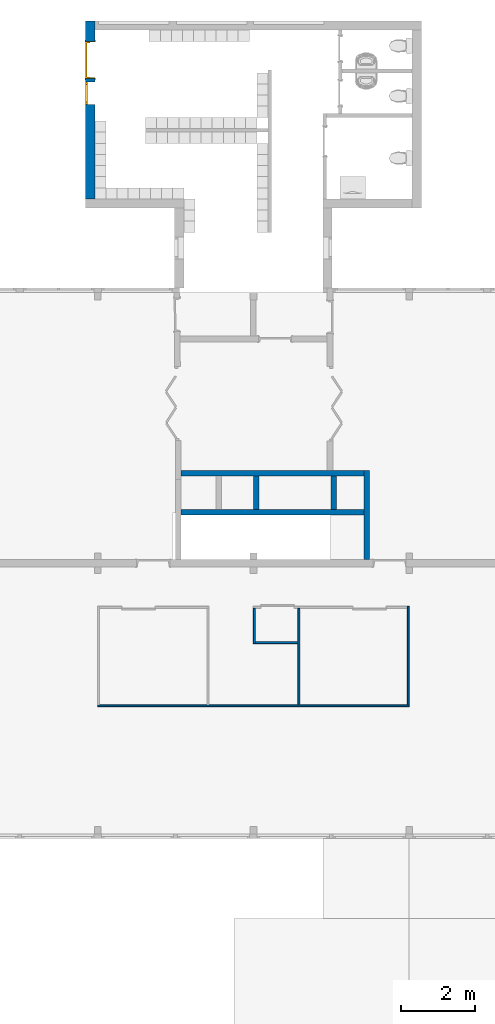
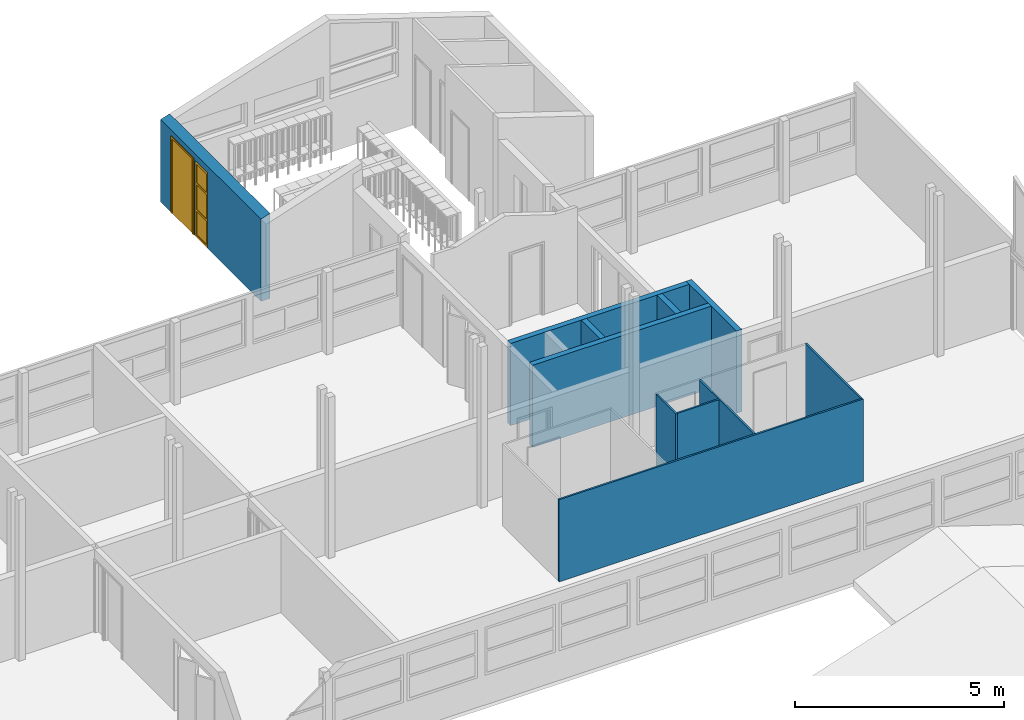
# One storey, part 32 of 48: 11 walls, 1 door, 1 window, 2 openings.
"""IFC2X3 building model written with IfcOpenShell, lengths in millimetres."""

from ifc_helpers import new_model, entity, si_unit, converted_unit, derived_unit, money_unit, direction, frame, origin_with_axes, place, context, subcontext, project, spatial, open_shell, faceted_brep, surface_model, material, type_object, element, fill, save


model = new_model("IFC2X3")

# Units and contexts
model_context = context("Model", 3, precision=0.01, world=origin_with_axes(), true_north=direction((0.0, 1.0)))
body_context = subcontext(model_context, "Body", "Model", "MODEL_VIEW")
ifc_project = project(units=[si_unit("LENGTHUNIT", "METRE", prefix="MILLI"), si_unit("AREAUNIT", "SQUARE_METRE"), si_unit("VOLUMEUNIT", "CUBIC_METRE"), converted_unit("PLANEANGLEUNIT", "DEGREE", entity("IfcPlaneAngleMeasure", 0.0174532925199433), si_unit("PLANEANGLEUNIT", "RADIAN"), dimensions=[0, 0, 0, 0, 0, 0, 0]), money_unit("USD"), converted_unit("TIMEUNIT", "Year", entity("IfcTimeMeasure", 31557600.0), si_unit("TIMEUNIT", "SECOND"), dimensions=[0, 0, 1, 0, 0, 0, 0]), si_unit("MASSUNIT", "GRAM", prefix="KILO"), si_unit("THERMODYNAMICTEMPERATUREUNIT", "DEGREE_CELSIUS"), si_unit("LUMINOUSINTENSITYUNIT", "LUMEN"), si_unit("ENERGYUNIT", "JOULE", prefix="MEGA"), derived_unit("THERMALCONDUCTANCEUNIT", [(si_unit("POWERUNIT", "WATT"), 1), (si_unit("LENGTHUNIT", "METRE"), -1), (si_unit("THERMODYNAMICTEMPERATUREUNIT", "KELVIN"), -1)]), derived_unit("SPECIFICHEATCAPACITYUNIT", [(si_unit("ENERGYUNIT", "JOULE"), 1), (si_unit("MASSUNIT", "GRAM", prefix="KILO"), -1), (si_unit("THERMODYNAMICTEMPERATUREUNIT", "KELVIN"), -1)]), derived_unit("MASSDENSITYUNIT", [(si_unit("MASSUNIT", "GRAM", prefix="KILO"), 1), (si_unit("VOLUMEUNIT", "CUBIC_METRE"), -1)])], contexts=[model_context])

# Site, building, storey
site_placement = place(None, origin_with_axes())
site = spatial("IfcSite", under=ifc_project, at=site_placement, Name="Site", CompositionType="ELEMENT")
building_placement = place(site_placement, origin_with_axes())
building = spatial("IfcBuilding", under=site, at=building_placement, Name="Building", CompositionType="ELEMENT")
storey_placement = place(building_placement, frame((0.0, 0.0, 3300.0), z_axis=(0.0, 0.0, 1.0), x_axis=(1.0, 0.0, 0.0)))
storey = spatial("IfcBuildingStorey", under=building, at=storey_placement, Name="1 ETG", CompositionType="ELEMENT", Elevation=3300.0)

# Walls
ifc_material = material(Name="GENERIC - INTERNAL FILLER")
wall_type_1 = type_object("IfcWallType", Name="GENERIC - INTERNAL FILLER 150", PredefinedType="NOTDEFINED")
wall_1_placement = place(storey_placement, frame((60003.50288425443, 15799.87497638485, 0.0), z_axis=(0.0, 0.0, 1.0), x_axis=(1.0, 0.0, 0.0)))
element("IfcWall", 1, at=wall_1_placement, inside=storey, type_object=wall_type_1, material=ifc_material, Name="SW - 001", context=body_context, shape_type="Brep", body=[
    faceted_brep([(4930.183057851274, 150.0000000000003, 0.0), (4930.183057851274, 0.0, 0.0), (0.0, 0.0, 0.0), (0.0, 150.0000000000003, 0.0), (4930.183057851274, 150.0000000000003, 2400.0), (4930.183057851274, 0.0, 2400.0), (0.0, 0.0, 2400.0), (0.0, 150.0000000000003, 2400.0)], [[[0, 1, 2, 3]], [[1, 0, 4, 5]], [[1, 5, 6, 2]], [[7, 3, 2, 6]], [[4, 0, 3, 7]], [[5, 4, 7, 6]]]),
])
wall_2_placement = place(storey_placement, frame((64933.68594210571, 16999.87497638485, 0.0), z_axis=(0.0, 0.0, 1.0), x_axis=(0.0, -1.0, 0.0)))
element("IfcWall", 2, at=wall_2_placement, inside=storey, type_object=wall_type_1, material=ifc_material, Name="SW - 001", context=body_context, shape_type="Brep", body=[
    faceted_brep([(0.0, 0.0, 2400.0), (2399.874976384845, 0.0, 2400.0), (2399.874976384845, 150.0000000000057, 2400.0), (0.0, 150.0000000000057, 2400.0), (2399.999999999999, 0.0, 2300.000000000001), (2399.874976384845, 0.0, 2300.000000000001), (0.0, 0.0, 0.0), (2399.999999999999, 0.0, 0.0), (2399.874976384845, 150.0000000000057, 2300.000000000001), (2399.999999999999, 150.0000000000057, 2300.000000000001), (2399.999999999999, 150.0000000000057, 0.0), (0.0, 150.0000000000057, 0.0)], [[[0, 1, 2, 3]], [[4, 5, 1, 0, 6, 7]], [[5, 8, 2, 1]], [[2, 8, 9, 10, 11, 3]], [[0, 3, 11, 6]], [[4, 9, 8, 5]], [[11, 10, 7, 6]], [[10, 9, 4, 7]]]),
])
wall_3_placement = place(storey_placement, frame((64933.68594210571, 16999.87497638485, 0.0), z_axis=(0.0, 0.0, 1.0), x_axis=(-1.0, 0.0, 0.0)))
element("IfcWall", 3, at=wall_3_placement, inside=storey, type_object=wall_type_1, material=ifc_material, Name="SW - 001", context=body_context, shape_type="Brep", body=[
    faceted_brep([(0.0, 149.9999999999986, 0.0), (4930.183057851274, 149.9999999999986, 0.0), (4930.183057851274, 0.0, 0.0), (0.0, 0.0, 0.0), (0.0, 149.9999999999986, 2400.0), (4930.183057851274, 149.9999999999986, 2400.0), (4930.183057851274, 0.0, 2400.0), (0.0, 0.0, 2400.0)], [[[0, 1, 2, 3]], [[4, 5, 1, 0]], [[6, 2, 1, 5]], [[3, 2, 6, 7]], [[7, 4, 0, 3]], [[7, 6, 5, 4]]]),
])
wall_4_placement = place(storey_placement, frame((64037.26491184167, 15799.87497638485, 0.0), z_axis=(0.0, 0.0, 1.0), x_axis=(0.0, 1.0, 0.0)))
element("IfcWall", 4, at=wall_4_placement, inside=storey, type_object=wall_type_1, material=ifc_material, Name="SW - 001", context=body_context, shape_type="Brep", body=[
    faceted_brep([(1050.000000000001, -150.0000000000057, 2400.0), (1050.000000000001, 0.0, 2400.0), (150.0000000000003, 0.0, 2400.0), (150.0000000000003, -150.0000000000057, 2400.0), (1050.000000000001, -150.0000000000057, 0.0), (1050.000000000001, 0.0, 0.0), (150.0000000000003, 0.0, 0.0), (150.0000000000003, -150.0000000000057, 0.0)], [[[0, 1, 2, 3]], [[1, 0, 4, 5]], [[1, 5, 6, 2]], [[7, 3, 2, 6]], [[4, 0, 3, 7]], [[5, 4, 7, 6]]]),
])
wall_5_placement = place(storey_placement, frame((61949.99999999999, 15799.87497638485, 0.0), z_axis=(0.0, 0.0, 1.0), x_axis=(0.0, 1.0, 0.0)))
element("IfcWall", 5, at=wall_5_placement, inside=storey, type_object=wall_type_1, material=ifc_material, Name="SW - 001", context=body_context, shape_type="Brep", body=[
    faceted_brep([(1050.000000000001, -149.9999999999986, 2400.0), (1050.000000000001, 0.0, 2400.0), (150.0000000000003, 0.0, 2400.0), (150.0000000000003, -149.9999999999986, 2400.0), (1050.000000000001, -149.9999999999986, 0.0), (1050.000000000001, 0.0, 0.0), (150.0000000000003, 0.0, 0.0), (150.0000000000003, -149.9999999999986, 0.0)], [[[0, 1, 2, 3]], [[1, 0, 4, 5]], [[1, 5, 6, 2]], [[7, 3, 2, 6]], [[4, 0, 3, 7]], [[5, 4, 7, 6]]]),
])

# Wall, openings, window, door
wall_type_2 = type_object("IfcWallType", Name="GENERIC - INTERNAL FILLER 250", PredefinedType="NOTDEFINED")
wall_6_placement = place(storey_placement, frame((57550.00001747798, 24194.83911730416, 0.0), z_axis=(0.0, 0.0, 1.0), x_axis=(0.0, 1.0, 0.0)))
wall_6 = element("IfcWall", 6, at=wall_6_placement, inside=storey, type_object=wall_type_2, material=ifc_material, Name="SW - 001", context=body_context, shape_type="Brep", body=[
    faceted_brep([(3375.000000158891, -125.0, 0.0), (3375.000000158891, -125.0, 2200.0), (4375.000000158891, -125.0, 2200.0), (4375.000000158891, -125.0, 0.0), (4925.000000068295, -125.0, 0.0), (4925.000000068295, -125.0, 2481.229939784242), (125.0, -125.0, 2481.229939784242), (125.0, -125.0, 0.0), (2675.000000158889, -125.0, 0.0), (2675.000000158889, -125.0, 2200.0), (3275.00000015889, -125.0, 2200.0), (3275.00000015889, -125.0, 0.0), (3375.000000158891, 125.0, 0.0), (3375.000000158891, 125.0, 2200.0), (4375.000000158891, 125.0, 2200.0), (4375.000000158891, 125.0, 0.0), (4925.000000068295, 125.0, 0.0), (4925.000000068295, 125.0, 2399.999999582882), (125.0, 125.0, 2399.999999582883), (125.0, 125.0, 0.0), (2675.000000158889, 125.0, 0.0), (2675.000000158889, 125.0, 2200.0), (3275.00000015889, 125.0, 2200.0), (3275.00000015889, 125.0, 0.0)], [[[0, 1, 2, 3, 4, 5, 6, 7, 8, 9, 10, 11]], [[1, 0, 12, 13]], [[2, 1, 13, 14]], [[3, 2, 14, 15]], [[3, 15, 16, 4]], [[5, 4, 16, 17]], [[5, 17, 18, 6]], [[18, 19, 7, 6]], [[8, 7, 19, 20]], [[8, 20, 21, 9]], [[9, 21, 22, 10]], [[10, 22, 23, 11]], [[12, 0, 11, 23]], [[13, 12, 23, 22, 21, 20, 19, 18, 17, 16, 15, 14]]]),
])
opening_1_placement = place(wall_6_placement, frame((2975.00000015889, 0.0, 0.0), z_axis=(0.0, 0.0, 1.0), x_axis=(1.0, 0.0, 0.0)))
opening_1 = element("IfcOpeningElement", 7, at=opening_1_placement, cuts=wall_6, Name="WD - 001", context=body_context, shape_type="Brep", body=[
    faceted_brep([(-300.0000000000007, -125.9999999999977, 2200.0), (-300.0000000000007, -125.9999999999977, 0.0), (300.0000000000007, -125.9999999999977, 0.0), (300.0000000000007, -125.9999999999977, 2200.0), (-300.0000000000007, 125.9999999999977, 2200.0), (-300.0000000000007, 125.9999999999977, 0.0), (300.0000000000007, 125.9999999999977, 0.0), (300.0000000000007, 125.9999999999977, 2200.0)], [[[0, 1, 2, 3]], [[4, 5, 1, 0]], [[5, 6, 2, 1]], [[6, 7, 3, 2]], [[7, 4, 0, 3]], [[6, 5, 4, 7]]]),
])
opening_2_placement = place(wall_6_placement, frame((3875.000000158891, 0.0, 0.0), z_axis=(0.0, 0.0, 1.0), x_axis=(1.0, 0.0, 0.0)))
opening_2 = element("IfcOpeningElement", 8, at=opening_2_placement, cuts=wall_6, Name="DOO - 002", context=body_context, shape_type="Brep", body=[
    faceted_brep([(500.0, 125.0, 0.0), (500.0, 125.0, 2200.0), (500.0, -125.0, 2200.0), (500.0, -125.0, 0.0), (-500.0, 125.0, 2200.0), (536.9999999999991, 125.0, 0.0), (536.9999999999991, 125.0, 2237.0), (-536.9999999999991, 125.0, 2237.0), (-536.9999999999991, 125.0, 0.0), (-500.0, 125.0, 0.0), (-500.0, -125.0, 2200.0), (-500.0, -125.0, 0.0), (-536.9999999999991, -125.0, 0.0), (-536.9999999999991, -125.0, 2237.0), (536.9999999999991, -125.0, 2237.0), (536.9999999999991, -125.0, 0.0), (500.0, 125.9999999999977, 0.0), (500.0, -125.9999999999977, 0.0), (-500.0, -125.9999999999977, 0.0), (-500.0, 125.9999999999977, 0.0), (536.9999999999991, 125.9999999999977, 0.0), (536.9999999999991, 125.9999999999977, 2237.0), (-536.9999999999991, 125.9999999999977, 2237.0), (-536.9999999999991, 125.9999999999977, 0.0), (-536.9999999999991, -125.9999999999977, 0.0), (-536.9999999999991, -125.9999999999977, 2237.0), (536.9999999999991, -125.9999999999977, 2237.0), (536.9999999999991, -125.9999999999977, 0.0), (500.0, 125.9999999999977, 2200.0), (-500.0, 125.9999999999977, 2200.0)], [[[0, 1, 2, 3]], [[4, 1, 0, 5, 6, 7, 8, 9]], [[1, 4, 10, 2]], [[3, 2, 10, 11, 12, 13, 14, 15]], [[16, 0, 3, 17, 18, 11, 9, 19]], [[0, 16, 20, 5]], [[6, 5, 20, 21]], [[7, 6, 21, 22]], [[8, 7, 22, 23]], [[19, 9, 8, 23]], [[4, 9, 11, 10]], [[11, 18, 24, 12]], [[13, 12, 24, 25]], [[14, 13, 25, 26]], [[15, 14, 26, 27]], [[17, 3, 15, 27]], [[17, 27, 26, 25, 24, 18]], [[28, 16, 19, 29]], [[16, 28, 29, 19, 23, 22, 21, 20]]]),
])
window_style = type_object("IfcWindowStyle", Name="Vindu variabelt", ConstructionType="NOTDEFINED", OperationType="TRIPLE_PANEL_HORIZONTAL", ParameterTakesPrecedence=False, Sizeable=False)
window_placement = place(opening_1_placement, frame((-300.0000000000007, 0.0, 0.0), z_axis=(0.0, 0.0, 1.0), x_axis=(1.0, 0.0, 0.0)))
window = element("IfcWindow", 9, at=window_placement, inside=storey, type_object=window_style, Name="WD - 001", ObjectType="WINDOW", OverallHeight=2200.0, OverallWidth=600.0, context=body_context, shape_type="SurfaceModel", body=[
    faceted_brep([(533.9999999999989, 75.00000000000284, 764.4329028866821), (533.9999999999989, 75.00000000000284, 820.4329028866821), (533.9999999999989, 125.0, 820.4329028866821), (533.9999999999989, 125.0, 764.4329028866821), (533.9999999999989, 75.00000000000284, 65.99999999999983), (600.0000000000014, 75.00000000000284, 65.99999999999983), (600.0000000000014, 75.00000000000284, 2134.0), (533.9999999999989, 75.00000000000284, 2134.0), (533.9999999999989, 75.00000000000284, 1593.018749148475), (533.9999999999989, 75.00000000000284, 1537.018749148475), (533.9999999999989, 125.0, 1537.018749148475), (533.9999999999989, 125.0, 1593.018749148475), (533.9999999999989, 125.0, 2134.0), (600.0000000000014, 125.0, 2134.0), (600.0000000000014, 125.0, 65.99999999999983), (533.9999999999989, 125.0, 65.99999999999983)], [[[0, 1, 2, 3]], [[0, 4, 5, 6, 7, 8, 9, 1]], [[1, 9, 10, 2]], [[3, 2, 10, 11, 12, 13, 14, 15]], [[4, 0, 3, 15]], [[5, 4, 15, 14]], [[6, 5, 14, 13]], [[7, 6, 13, 12]], [[8, 7, 12, 11]], [[9, 8, 11, 10]]]),
    faceted_brep([(66.0000000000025, 75.00000000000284, 65.99999999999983), (0.0, 75.00000000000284, 65.99999999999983), (0.0, 125.0, 65.99999999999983), (66.0000000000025, 125.0, 65.99999999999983), (66.0000000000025, 75.00000000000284, 764.4329028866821), (66.0000000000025, 75.00000000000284, 820.4329028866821), (66.0000000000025, 75.00000000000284, 1537.018749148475), (66.0000000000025, 75.00000000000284, 1593.018749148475), (66.0000000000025, 75.00000000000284, 2134.0), (0.0, 75.00000000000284, 2134.0), (0.0, 125.0, 2134.0), (66.0000000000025, 125.0, 2134.0), (66.0000000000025, 125.0, 1593.018749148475), (66.0000000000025, 125.0, 1537.018749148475), (66.0000000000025, 125.0, 820.4329028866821), (66.0000000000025, 125.0, 764.4329028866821)], [[[0, 1, 2, 3]], [[0, 4, 5, 6, 7, 8, 9, 1]], [[1, 9, 10, 2]], [[3, 2, 10, 11, 12, 13, 14, 15]], [[4, 0, 3, 15]], [[5, 4, 15, 14]], [[6, 5, 14, 13]], [[7, 6, 13, 12]], [[8, 7, 12, 11]], [[9, 8, 11, 10]]]),
    faceted_brep([(533.9999999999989, 75.00000000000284, 1593.018749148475), (533.9999999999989, 75.00000000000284, 1537.018749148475), (533.9999999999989, 125.0, 1537.018749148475), (533.9999999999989, 125.0, 1593.018749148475), (66.0000000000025, 75.00000000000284, 1593.018749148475), (66.0000000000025, 75.00000000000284, 1537.018749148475), (66.0000000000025, 125.0, 1537.018749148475), (66.0000000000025, 125.0, 1593.018749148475)], [[[0, 1, 2, 3]], [[0, 4, 5, 1]], [[1, 5, 6, 2]], [[3, 2, 6, 7]], [[4, 0, 3, 7]], [[5, 4, 7, 6]]]),
    faceted_brep([(533.9999999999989, 75.00000000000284, 764.4329028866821), (66.0000000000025, 75.00000000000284, 764.4329028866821), (66.0000000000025, 125.0, 764.4329028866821), (533.9999999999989, 125.0, 764.4329028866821), (533.9999999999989, 75.00000000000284, 820.4329028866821), (66.0000000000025, 75.00000000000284, 820.4329028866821), (66.0000000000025, 125.0, 820.4329028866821), (533.9999999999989, 125.0, 820.4329028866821)], [[[0, 1, 2, 3]], [[0, 4, 5, 1]], [[1, 5, 6, 2]], [[3, 2, 6, 7]], [[4, 0, 3, 7]], [[5, 4, 7, 6]]]),
    faceted_brep([(533.9999999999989, 75.00000000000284, 65.99999999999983), (600.0000000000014, 75.00000000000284, 65.99999999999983), (600.0000000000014, 125.0, 65.99999999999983), (533.9999999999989, 125.0, 65.99999999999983), (66.0000000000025, 75.00000000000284, 65.99999999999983), (0.0, 75.00000000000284, 65.99999999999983), (0.0, 75.00000000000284, 0.0), (600.0000000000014, 75.00000000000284, 0.0), (600.0000000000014, 125.0, 0.0), (0.0, 125.0, 0.0), (0.0, 125.0, 65.99999999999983), (66.0000000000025, 125.0, 65.99999999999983)], [[[0, 1, 2, 3]], [[0, 4, 5, 6, 7, 1]], [[1, 7, 8, 2]], [[3, 2, 8, 9, 10, 11]], [[4, 0, 3, 11]], [[5, 4, 11, 10]], [[6, 5, 10, 9]], [[7, 6, 9, 8]]]),
    faceted_brep([(66.0000000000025, 75.00000000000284, 2134.0), (0.0, 75.00000000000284, 2134.0), (0.0, 125.0, 2134.0), (66.0000000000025, 125.0, 2134.0), (533.9999999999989, 75.00000000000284, 2134.0), (600.0000000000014, 75.00000000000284, 2134.0), (600.0000000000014, 75.00000000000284, 2200.0), (0.0, 75.00000000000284, 2200.0), (0.0, 125.0, 2200.0), (600.0000000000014, 125.0, 2200.0), (600.0000000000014, 125.0, 2134.0), (533.9999999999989, 125.0, 2134.0)], [[[0, 1, 2, 3]], [[0, 4, 5, 6, 7, 1]], [[1, 7, 8, 2]], [[3, 2, 8, 9, 10, 11]], [[4, 0, 3, 11]], [[5, 4, 11, 10]], [[6, 5, 10, 9]], [[7, 6, 9, 8]]]),
    surface_model("IfcShellBasedSurfaceModel", [(534.0000000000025, 90.00000000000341, 1593.018749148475), (534.0000000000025, 89.9999999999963, 2134.0), (65.99999999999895, 90.00000000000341, 2134.0), (65.99999999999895, 90.00000000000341, 1593.018749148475)], [open_shell([[[0, 1, 2, 3]]])]),
    surface_model("IfcShellBasedSurfaceModel", [(534.0000000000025, 109.9999999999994, 1593.018749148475), (65.99999999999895, 109.9999999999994, 1593.018749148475), (65.99999999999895, 109.9999999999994, 2134.0), (534.0000000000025, 109.9999999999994, 2134.0)], [open_shell([[[0, 1, 2, 3]]])]),
    surface_model("IfcShellBasedSurfaceModel", [(534.0000000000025, 90.00000000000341, 820.4329028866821), (534.0000000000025, 90.00000000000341, 1537.018749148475), (65.99999999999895, 90.00000000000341, 1537.018749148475), (65.99999999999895, 90.00000000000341, 820.4329028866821)], [open_shell([[[0, 1, 2, 3]]])]),
    surface_model("IfcShellBasedSurfaceModel", [(534.0000000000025, 109.9999999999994, 820.4329028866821), (65.99999999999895, 109.9999999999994, 820.4329028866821), (65.99999999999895, 109.9999999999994, 1537.018749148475), (534.0000000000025, 109.9999999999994, 1537.018749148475)], [open_shell([[[0, 1, 2, 3]]])]),
    surface_model("IfcShellBasedSurfaceModel", [(534.0000000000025, 90.00000000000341, 65.99999999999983), (534.0000000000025, 90.00000000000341, 764.4329028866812), (65.99999999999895, 90.00000000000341, 764.4329028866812), (65.99999999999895, 90.00000000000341, 65.99999999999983)], [open_shell([[[0, 1, 2, 3]]])]),
    surface_model("IfcShellBasedSurfaceModel", [(534.0000000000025, 109.9999999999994, 65.99999999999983), (65.99999999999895, 109.9999999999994, 65.99999999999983), (65.99999999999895, 109.9999999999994, 764.4329028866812), (534.0000000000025, 109.9999999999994, 764.4329028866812)], [open_shell([[[0, 1, 2, 3]]])]),
])
fill(opening_1, window)
door_style = type_object("IfcDoorStyle", Name="Dør", ConstructionType="NOTDEFINED", OperationType="SINGLE_SWING_RIGHT", ParameterTakesPrecedence=False, Sizeable=False)
door_placement = place(opening_2_placement, frame((-500.0, 0.0, 0.0), z_axis=(0.0, 0.0, 1.0), x_axis=(1.0, 0.0, 0.0)))
door = element("IfcDoor", 10, at=door_placement, inside=storey, type_object=door_style, Name="DOO - 002", ObjectType="DOOR", OverallHeight=2200.0, OverallWidth=1000.0, context=body_context, shape_type="Brep", body=[
    faceted_brep([(0.0, 9.99999999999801, 0.0), (24.99999999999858, 9.99999999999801, 0.0), (24.99999999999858, -125.0, 0.0), (0.0, -125.0, 0.0), (0.0, 9.99999999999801, 2200.0), (24.99999999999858, 9.99999999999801, 2175.0), (24.99999999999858, -125.0, 2175.0), (0.0, -125.0, 2200.0)], [[[0, 1, 2, 3]], [[0, 4, 5, 1]], [[1, 5, 6, 2]], [[3, 2, 6, 7]], [[4, 0, 3, 7]], [[5, 4, 7, 6]]]),
    faceted_brep([(1000.0, 9.99999999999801, 2200.0), (975.0000000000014, 9.99999999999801, 2175.0), (975.0000000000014, -125.0, 2175.0), (1000.0, -125.0, 2200.0), (1000.0, 9.99999999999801, 0.0), (975.0000000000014, 9.99999999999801, 0.0), (975.0000000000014, -125.0, 0.0), (1000.0, -125.0, 0.0)], [[[0, 1, 2, 3]], [[0, 4, 5, 1]], [[1, 5, 6, 2]], [[3, 2, 6, 7]], [[4, 0, 3, 7]], [[5, 4, 7, 6]]]),
    faceted_brep([(24.99999999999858, 9.99999999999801, 2175.0), (975.0000000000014, 9.99999999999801, 2175.0), (975.0000000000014, -125.0, 2175.0), (24.99999999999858, -125.0, 2175.0), (0.0, 9.99999999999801, 2200.0), (1000.0, 9.99999999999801, 2200.0), (1000.0, -125.0, 2200.0), (0.0, -125.0, 2200.0)], [[[0, 1, 2, 3]], [[0, 4, 5, 1]], [[1, 5, 6, 2]], [[3, 2, 6, 7]], [[4, 0, 3, 7]], [[5, 4, 7, 6]]]),
    faceted_brep([(-36.99999999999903, -143.9999999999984, 0.0), (-36.99999999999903, -125.0, 0.0), (13.00000000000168, -125.0, 0.0), (13.00000000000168, -143.9999999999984, 0.0), (-36.99999999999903, -143.9999999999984, 2237.0), (-36.99999999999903, -125.0, 2237.0), (13.00000000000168, -125.0, 2187.0), (13.00000000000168, -143.9999999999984, 2187.0)], [[[0, 1, 2, 3]], [[4, 5, 1, 0]], [[1, 5, 6, 2]], [[3, 2, 6, 7]], [[0, 3, 7, 4]], [[7, 6, 5, 4]]]),
    faceted_brep([(1036.999999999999, -143.9999999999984, 2237.0), (1036.999999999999, -125.0, 2237.0), (986.9999999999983, -125.0, 2187.0), (986.9999999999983, -143.9999999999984, 2187.0), (1036.999999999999, -143.9999999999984, 0.0), (1036.999999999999, -125.0, 0.0), (986.9999999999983, -125.0, 0.0), (986.9999999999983, -143.9999999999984, 0.0)], [[[0, 1, 2, 3]], [[4, 5, 1, 0]], [[1, 5, 6, 2]], [[3, 2, 6, 7]], [[0, 3, 7, 4]], [[7, 6, 5, 4]]]),
    faceted_brep([(-36.99999999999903, -143.9999999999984, 2237.0), (-36.99999999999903, -125.0, 2237.0), (13.00000000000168, -125.0, 2187.0), (13.00000000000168, -143.9999999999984, 2187.0), (1036.999999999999, -143.9999999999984, 2237.0), (1036.999999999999, -125.0, 2237.0), (986.9999999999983, -125.0, 2187.0), (986.9999999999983, -143.9999999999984, 2187.0)], [[[0, 1, 2, 3]], [[4, 5, 1, 0]], [[1, 5, 6, 2]], [[3, 2, 6, 7]], [[0, 3, 7, 4]], [[7, 6, 5, 4]]]),
    faceted_brep([(-36.99999999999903, 143.9999999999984, 0.0), (13.00000000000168, 143.9999999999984, 0.0), (13.00000000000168, 125.0, 0.0), (-36.99999999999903, 125.0, 0.0), (-36.99999999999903, 143.9999999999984, 2237.0), (13.00000000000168, 143.9999999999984, 2187.0), (13.00000000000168, 125.0, 2187.0), (-36.99999999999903, 125.0, 2237.0)], [[[0, 1, 2, 3]], [[0, 4, 5, 1]], [[1, 5, 6, 2]], [[3, 2, 6, 7]], [[4, 0, 3, 7]], [[5, 4, 7, 6]]]),
    faceted_brep([(1036.999999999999, 143.9999999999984, 2237.0), (986.9999999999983, 143.9999999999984, 2187.0), (986.9999999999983, 125.0, 2187.0), (1036.999999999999, 125.0, 2237.0), (1036.999999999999, 143.9999999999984, 0.0), (986.9999999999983, 143.9999999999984, 0.0), (986.9999999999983, 125.0, 0.0), (1036.999999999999, 125.0, 0.0)], [[[0, 1, 2, 3]], [[0, 4, 5, 1]], [[1, 5, 6, 2]], [[3, 2, 6, 7]], [[4, 0, 3, 7]], [[5, 4, 7, 6]]]),
    faceted_brep([(-36.99999999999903, 143.9999999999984, 2237.0), (13.00000000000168, 143.9999999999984, 2187.0), (13.00000000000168, 125.0, 2187.0), (-36.99999999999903, 125.0, 2237.0), (1036.999999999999, 143.9999999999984, 2237.0), (986.9999999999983, 143.9999999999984, 2187.0), (986.9999999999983, 125.0, 2187.0), (1036.999999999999, 125.0, 2237.0)], [[[0, 1, 2, 3]], [[0, 4, 5, 1]], [[1, 5, 6, 2]], [[3, 2, 6, 7]], [[4, 0, 3, 7]], [[5, 4, 7, 6]]]),
    faceted_brep([(0.0, 125.0, 0.0), (39.99999999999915, 125.0, 0.0), (39.99999999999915, 9.99999999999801, 0.0), (0.0, 9.99999999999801, 0.0), (0.0, 125.0, 2160.0), (39.99999999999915, 125.0, 2160.0), (39.99999999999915, 9.99999999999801, 2160.0), (0.0, 9.99999999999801, 2160.0)], [[[0, 1, 2, 3]], [[0, 4, 5, 1]], [[1, 5, 6, 2]], [[3, 2, 6, 7]], [[4, 0, 3, 7]], [[5, 4, 7, 6]]]),
    faceted_brep([(1000.0, 125.0, 0.0), (1000.0, 125.0, 2160.0), (1000.0, 9.99999999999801, 2160.0), (1000.0, 9.99999999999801, 0.0), (960.0000000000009, 125.0, 0.0), (960.0000000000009, 125.0, 2160.0), (960.0000000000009, 9.99999999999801, 2160.0), (960.0000000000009, 9.99999999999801, 0.0)], [[[0, 1, 2, 3]], [[0, 4, 5, 1]], [[1, 5, 6, 2]], [[3, 2, 6, 7]], [[4, 0, 3, 7]], [[5, 4, 7, 6]]]),
    faceted_brep([(0.0, 125.0, 2200.0), (0.0, 125.0, 2160.0), (0.0, 9.99999999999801, 2160.0), (0.0, 9.99999999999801, 2200.0), (1000.0, 125.0, 2200.0), (1000.0, 125.0, 2160.0), (960.0000000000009, 125.0, 2160.0), (39.99999999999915, 125.0, 2160.0), (39.99999999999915, 9.99999999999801, 2160.0), (960.0000000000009, 9.99999999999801, 2160.0), (1000.0, 9.99999999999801, 2160.0), (1000.0, 9.99999999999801, 2200.0)], [[[0, 1, 2, 3]], [[0, 4, 5, 6, 7, 1]], [[1, 7, 8, 2]], [[3, 2, 8, 9, 10, 11]], [[4, 0, 3, 11]], [[5, 4, 11, 10]], [[6, 5, 10, 9]], [[7, 6, 9, 8]]]),
    faceted_brep([(960.0000000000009, 125.0, 0.0), (960.0000000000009, 85.00000000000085, 0.0), (39.99999999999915, 85.00000000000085, 0.0), (39.99999999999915, 125.0, 0.0), (960.0000000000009, 125.0, 2160.0), (960.0000000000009, 85.00000000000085, 2160.0), (39.99999999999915, 85.00000000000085, 2160.0), (39.99999999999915, 125.0, 2160.0)], [[[0, 1, 2, 3]], [[4, 5, 1, 0]], [[1, 5, 6, 2]], [[3, 2, 6, 7]], [[0, 3, 7, 4]], [[7, 6, 5, 4]]]),
])
fill(opening_2, door)

# Walls
wall_type_3 = type_object("IfcWallType", Name="GENERIC - INTERNAL FILLER 50", PredefinedType="NOTDEFINED")
wall_7_placement = place(storey_placement, frame((66150.0, 10633.66421670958, 0.0), z_axis=(0.0, 0.0, 1.0), x_axis=(0.0, 1.0, 0.0)))
element("IfcWall", 11, at=wall_7_placement, inside=storey, type_object=wall_type_3, material=ifc_material, Name="SW - 001", context=body_context, shape_type="Brep", body=[
    faceted_brep([(2699.999999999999, 49.99999999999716, 0.0), (2699.999999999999, 0.0, 0.0), (50.00000000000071, 0.0, 0.0), (50.00000000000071, 49.99999999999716, 0.0), (2699.999999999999, 49.99999999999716, 2400.0), (2699.999999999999, 0.0, 2400.0), (50.00000000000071, 0.0, 2400.0), (50.00000000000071, 49.99999999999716, 2400.0)], [[[0, 1, 2, 3]], [[1, 0, 4, 5]], [[1, 5, 6, 2]], [[7, 3, 2, 6]], [[4, 0, 3, 7]], [[5, 4, 7, 6]]]),
])
wall_8_placement = place(storey_placement, frame((57749.99999999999, 10633.66421670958, 0.0), z_axis=(0.0, 0.0, 1.0), x_axis=(1.0, 0.0, 0.0)))
element("IfcWall", 12, at=wall_8_placement, inside=storey, type_object=wall_type_3, material=ifc_material, Name="SW - 001", context=body_context, shape_type="Brep", body=[
    faceted_brep([(8400.000000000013, 50.00000000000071, 0.0), (8400.000000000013, 0.0, 0.0), (0.0, 0.0, 0.0), (0.0, 50.00000000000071, 0.0), (8400.000000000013, 50.00000000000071, 2400.0), (8400.000000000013, 0.0, 2400.0), (0.0, 0.0, 2400.0), (0.0, 50.00000000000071, 2400.0)], [[[0, 1, 2, 3]], [[1, 0, 4, 5]], [[1, 5, 6, 2]], [[7, 3, 2, 6]], [[4, 0, 3, 7]], [[5, 4, 7, 6]]]),
])
wall_9_placement = place(storey_placement, frame((61949.99999999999, 12333.66421670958, 0.0), z_axis=(0.0, 0.0, 1.0), x_axis=(1.0, 0.0, 0.0)))
element("IfcWall", 13, at=wall_9_placement, inside=storey, type_object=wall_type_3, material=ifc_material, Name="SW - 001", context=body_context, shape_type="Brep", body=[
    faceted_brep([(1200.000000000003, 50.00000000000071, 0.0), (1200.000000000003, 0.0, 0.0), (49.99999999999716, 0.0, 0.0), (49.99999999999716, 50.00000000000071, 0.0), (1200.000000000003, 50.00000000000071, 2400.0), (1200.000000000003, 0.0, 2400.0), (49.99999999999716, 0.0, 2400.0), (49.99999999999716, 50.00000000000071, 2400.0)], [[[0, 1, 2, 3]], [[1, 0, 4, 5]], [[1, 5, 6, 2]], [[7, 3, 2, 6]], [[4, 0, 3, 7]], [[5, 4, 7, 6]]]),
])
wall_10_placement = place(storey_placement, frame((63150.0, 13333.66421670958, 0.0), z_axis=(0.0, 0.0, 1.0), x_axis=(0.0, -1.0, 0.0)))
element("IfcWall", 14, at=wall_10_placement, inside=storey, type_object=wall_type_3, material=ifc_material, Name="SW - 001", context=body_context, shape_type="Brep", body=[
    faceted_brep([(2649.999999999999, 49.99999999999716, 0.0), (2649.999999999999, 0.0, 0.0), (50.00000000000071, 0.0, 0.0), (50.00000000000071, 49.99999999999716, 0.0), (2649.999999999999, 49.99999999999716, 2400.0), (2649.999999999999, 0.0, 2400.0), (50.00000000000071, 0.0, 2400.0), (50.00000000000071, 49.99999999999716, 2400.0)], [[[0, 1, 2, 3]], [[1, 0, 4, 5]], [[1, 5, 6, 2]], [[7, 3, 2, 6]], [[4, 0, 3, 7]], [[5, 4, 7, 6]]]),
])
wall_11_placement = place(storey_placement, frame((61949.99999999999, 13333.66421670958, 0.0), z_axis=(0.0, 0.0, 1.0), x_axis=(0.0, -1.0, 0.0)))
element("IfcWall", 15, at=wall_11_placement, inside=storey, type_object=wall_type_3, material=ifc_material, Name="SW - 001", context=body_context, shape_type="Brep", body=[
    faceted_brep([(1000.0, 49.99999999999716, 0.0), (1000.0, 0.0, 0.0), (50.00000000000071, 0.0, 0.0), (50.00000000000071, 49.99999999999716, 0.0), (1000.0, 49.99999999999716, 2400.0), (1000.0, 0.0, 2400.0), (50.00000000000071, 0.0, 2400.0), (50.00000000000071, 49.99999999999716, 2400.0)], [[[0, 1, 2, 3]], [[1, 0, 4, 5]], [[1, 5, 6, 2]], [[7, 3, 2, 6]], [[4, 0, 3, 7]], [[5, 4, 7, 6]]]),
])

save(model, "model.ifc")
